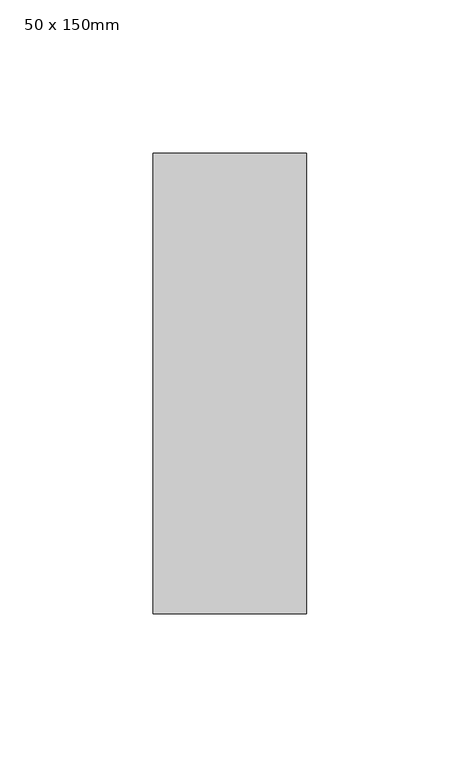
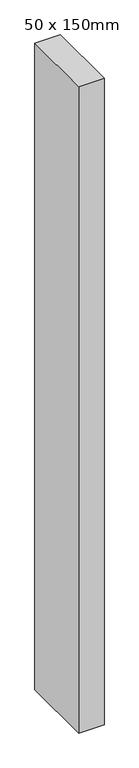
"""IFC4 building model written with IfcOpenShell, lengths in millimetres: member geometry, Прямоугольный импост : 50 x 150mm."""

from ifc_helpers import new_model, si_unit, frame, origin, place, context, project, spatial, polyline, outline, extrude, source, transform, mapped, element, save


def member_50_x_150mm_62c69b4d(model_context):
    return source(origin(), model_context, "Body", "SweptSolid", [
        extrude(outline(polyline([(0.0, 75.0), (0.0, -75.0), (-50.0, -75.0), (-50.0, 75.0), (0.0, 75.0)])), frame((0.0, 0.0, -1350.0), z_axis=(0.0, 0.0, 1.0), x_axis=(1.0, 0.0, 0.0)), (0.0, 0.0, 1.0), 1350.0),
    ])


if __name__ == "__main__":
    model = new_model("IFC4")
    model_context = context("Model", 3, world=origin())
    ifc_project = project(units=[si_unit("LENGTHUNIT", "METRE", prefix="MILLI")], contexts=[model_context])
    site = spatial("IfcSite", under=ifc_project)
    building = spatial("IfcBuilding", under=site)
    placement = place(None, origin())
    member_50_x_150mm_shape = member_50_x_150mm_62c69b4d(model_context)
    element("IfcMember", 1, ObjectType="Прямоугольный импост : 50 x 150mm", at=placement, inside=building, context=model_context, shape_type="MappedRepresentation", body=[
        mapped(member_50_x_150mm_shape, transform((0.0, 0.0, 0.0), x_axis=(1.0, 0.0, 0.0), y_axis=(0.0, 1.0, 0.0), z_axis=(0.0, 0.0, 1.0))),
    ])
    save(model, "model.ifc")
